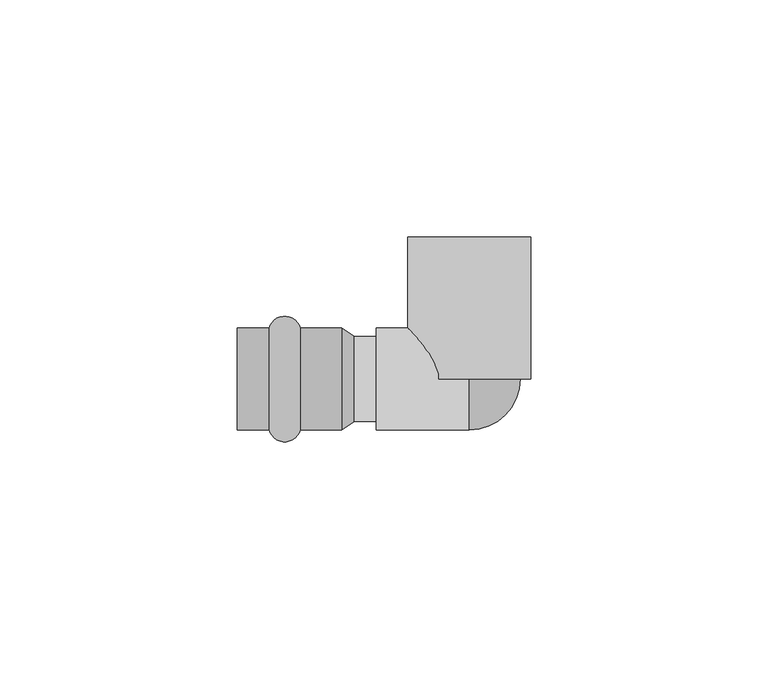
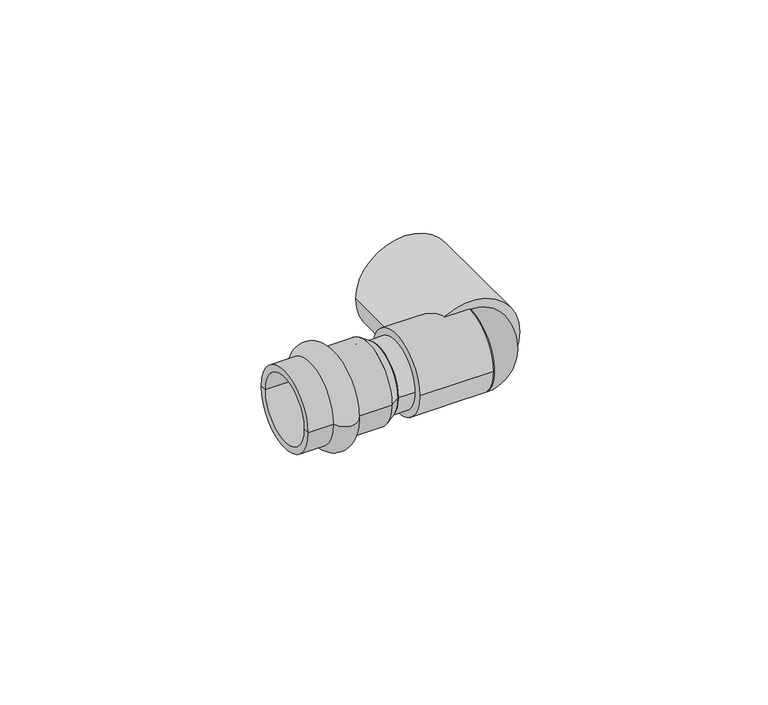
"""IFC4 building model written with IfcOpenShell, lengths in millimetres: pipe fitting geometry, VALTEC_VTi.952.I_Угольник с переходом на внутреннюю резьбу нержавеющая сталь : VTi.952.I."""

from ifc_helpers import new_model, si_unit, point, frame, origin, origin_2d, place, context, project, spatial, polyline, circle_curve, ellipse_curve, trimmed, segment, composite_curve, outline, extrude, source, transform, mapped, element, save
from ifc_brep_helpers import plane_surface, cylinder_surface, revolved_surface, advanced_brep


def pipe_fitting_e50a00d7(model_context):
    return source(origin(), model_context, "Body", "SolidModel", [
        advanced_brep(
        [(-42.2287193, -10.75, 0.0), (-42.2287193, 10.75, 0.0), (-35.6712807, 10.75, 0.0), (-35.6712807, -10.75, 0.0), (-49.0, -10.75, 0.0), (-49.0, 10.75, 0.0), (-49.0, -9.0, 0.0), (-49.0, 9.0, 0.0), (-26.95, -9.0, 0.0), (-26.95, 9.0, 0.0), (-26.95, -10.75, 0.0), (-26.95, 10.75, 0.0)],
        [
            (0, 1, circle_curve(frame((-42.2287193, 0.0, 0.0), z_axis=(1.0, 0.0, 0.0), x_axis=(0.0, 1.0, 0.0)), 10.75)),
            (1, 2, circle_curve(frame((-38.95, 9.85, 0.0), z_axis=(0.0, 0.0, -1.0), x_axis=(1.0, 0.0, 0.0)), 3.4)),
            (2, 3, circle_curve(frame((-35.6712807, 0.0, 0.0), z_axis=(-1.0, 0.0, 0.0), x_axis=(0.0, 1.0, 0.0)), 10.75)),
            (3, 0, circle_curve(frame((-38.95, -9.85, 0.0), z_axis=(0.0, 0.0, -1.0), x_axis=(1.0, 0.0, 0.0)), 3.4)),
            (1, 0, circle_curve(frame((-42.2287193, 0.0, 0.0), z_axis=(1.0, 0.0, 0.0), x_axis=(0.0, 1.0, 0.0)), 10.75)),
            (3, 2, circle_curve(frame((-35.6712807, 0.0, 0.0), z_axis=(-1.0, 0.0, 0.0), x_axis=(0.0, 1.0, 0.0)), 10.75)),
            (4, 5, circle_curve(frame((-49.0, 0.0, 0.0), z_axis=(1.0, 0.0, 0.0), x_axis=(0.0, 1.0, 0.0)), 10.75)),
            (5, 1),
            (0, 4),
            (5, 4, circle_curve(frame((-49.0, 0.0, 0.0), z_axis=(1.0, 0.0, 0.0), x_axis=(0.0, 1.0, 0.0)), 10.75)),
            (6, 7, circle_curve(frame((-49.0, 0.0, 0.0), z_axis=(1.0, 0.0, 0.0), x_axis=(0.0, 1.0, 0.0)), 9.0)),
            (7, 5),
            (4, 6),
            (7, 6, circle_curve(frame((-49.0, 0.0, 0.0), z_axis=(1.0, 0.0, 0.0), x_axis=(0.0, 1.0, 0.0)), 9.0)),
            (8, 9, circle_curve(frame((-26.95, 0.0, 0.0), z_axis=(1.0, 0.0, 0.0), x_axis=(0.0, 1.0, 0.0)), 9.0)),
            (9, 7),
            (6, 8),
            (9, 8, circle_curve(frame((-26.95, 0.0, 0.0), z_axis=(1.0, 0.0, 0.0), x_axis=(0.0, 1.0, 0.0)), 9.0)),
            (10, 11, circle_curve(frame((-26.95, 0.0, 0.0), z_axis=(1.0, 0.0, 0.0), x_axis=(0.0, 1.0, 0.0)), 10.75)),
            (11, 9),
            (8, 10),
            (11, 10, circle_curve(frame((-26.95, 0.0, 0.0), z_axis=(1.0, 0.0, 0.0), x_axis=(0.0, 1.0, 0.0)), 10.75)),
            (2, 11),
            (10, 3),
        ],
        [
            revolved_surface(trimmed(ellipse_curve(frame((-38.95, 9.85, 0.0), z_axis=(0.0, 0.0, 1.0), x_axis=(1.0, 0.0, 0.0)), 3.4, 3.4), [point((-35.6712807, 10.75, 0.0))], [point((-42.2287193, 10.75, 0.0))], True, "CARTESIAN"), (-52.5364426, 0.0, 0.0), (-1.0, 0.0, 0.0)),
            cylinder_surface(frame((-52.5364426, 0.0, 0.0), z_axis=(-1.0, 0.0, 0.0), x_axis=(0.0, 1.0, 0.0)), 10.75),
            plane_surface(frame((-49.0, 0.0, 0.0), z_axis=(-1.0, 0.0, 0.0), x_axis=(0.0, 1.0, 0.0))),
            revolved_surface(polyline([(-49.0, 9.0, 0.0), (-26.95, 9.0, 0.0)]), (-52.5364426, 0.0, 0.0), (-1.0, 0.0, 0.0)),
            plane_surface(frame((-26.95, 0.0, 0.0), z_axis=(1.0, 0.0, 0.0), x_axis=(0.0, 1.0, 0.0))),
        ],
        [
            (0, [[1, 2, 3, 4]]),
            (0, [[5, -4, 6, -2]]),
            (1, [[7, 8, -1, 9]]),
            (1, [[10, -9, -5, -8]]),
            (2, [[11, 12, -7, 13]]),
            (2, [[14, -13, -10, -12]]),
            (3, [[15, 16, -11, 17]]),
            (3, [[18, -17, -14, -16]]),
            (4, [[19, 20, -15, 21]]),
            (4, [[22, -21, -18, -20]]),
            (1, [[-3, 23, -19, 24]]),
            (1, [[-6, -24, -22, -23]]),
        ],
    ),
        advanced_brep(
        [(0.0, 0.0, -10.75), (0.0, 0.0, 10.75)],
        [
            (0, 1, circle_curve(frame((0.0, 0.0, 0.0), z_axis=(-1.0, 0.0, 0.0), x_axis=(0.0, -1.0, 0.0)), 10.75)),
            (1, 0),
            (1, 0, circle_curve(frame((0.0, 0.0, 0.0), z_axis=(0.0, 1.0, 0.0), x_axis=(1.0, 0.0, 0.0)), 10.75)),
        ],
        [
            plane_surface(frame((0.0, 0.0, 1.732782), z_axis=(-1.0, 0.0, 0.0), x_axis=(0.0, -1.0, 0.0))),
            plane_surface(frame((0.0, 0.0, 1.732782), z_axis=(0.0, 1.0, 0.0), x_axis=(1.0, 0.0, 0.0))),
            revolved_surface(trimmed(ellipse_curve(frame((0.0, 0.0, 0.0), z_axis=(-1.0, 0.0, 0.0), x_axis=(0.0, -1.0, 0.0)), 10.75, 10.75), [point((0.0, 0.0, -10.75))], [point((0.0, 0.0, 10.75))], True, "CARTESIAN"), (0.0, 0.0, 1.732782), (0.0, 0.0, 1.0)),
        ],
        [
            (0, [[1, 2]]),
            (1, [[3, -2]]),
            (2, [[-1, -3]]),
        ],
    ),
        extrude(outline(composite_curve([segment(trimmed(circle_curve(origin_2d(), 10.75), [point((-10.75, 0.0))], [point((10.75, 0.0))], False, "CARTESIAN"), True, "CONTINUOUS"), segment(trimmed(circle_curve(origin_2d(), 10.75), [point((10.75, 0.0))], [point((-10.75, 0.0))], False, "CARTESIAN"), True, "CONTINUOUS")], self_intersect=False)), frame((-19.6390217, 0.0, 0.0), z_axis=(1.0, 0.0, 0.0), x_axis=(0.0, 1.0, 0.0)), (0.0, 0.0, 1.0), 19.6390217),
        extrude(outline(composite_curve([segment(trimmed(circle_curve(origin_2d(), 13.0), [point((0.0, -13.0))], [point((0.0, 13.0))], False, "CARTESIAN"), True, "CONTINUOUS"), segment(trimmed(circle_curve(origin_2d(), 13.0), [point((0.0, 13.0))], [point((0.0, -13.0))], False, "CARTESIAN"), True, "CONTINUOUS")], self_intersect=False), holes=[composite_curve([segment(trimmed(circle_curve(origin_2d(), 10.0), [point((0.0, -10.0))], [point((0.0, 10.0))], True, "CARTESIAN"), True, "CONTINUOUS"), segment(trimmed(circle_curve(origin_2d(), 10.0), [point((0.0, 10.0))], [point((0.0, -10.0))], True, "CARTESIAN"), True, "CONTINUOUS")], self_intersect=False)]), frame((0.0, 0.0, 0.0), z_axis=(0.0, 1.0, 0.0), x_axis=(0.0, 0.0, 1.0)), (0.0, 0.0, 1.0), 30.0),
        extrude(outline(composite_curve([segment(trimmed(circle_curve(origin_2d(), 9.0), [point((-9.0, 0.0))], [point((9.0, 0.0))], False, "CARTESIAN"), True, "CONTINUOUS"), segment(trimmed(circle_curve(origin_2d(), 9.0), [point((9.0, 0.0))], [point((-9.0, 0.0))], False, "CARTESIAN"), True, "CONTINUOUS")], self_intersect=False)), frame((-24.255, 0.0, 0.0), z_axis=(1.0, 0.0, 0.0), x_axis=(0.0, 1.0, 0.0)), (0.0, 0.0, 1.0), 4.6159783),
        advanced_brep(
        [(-26.95, -10.75, 0.0), (-26.95, 10.75, 0.0), (-24.255, -9.0, 0.0), (-24.255, 9.0, 0.0)],
        [
            (0, 1, circle_curve(frame((-26.95, 0.0, 0.0), z_axis=(-1.0, 0.0, 0.0), x_axis=(0.0, -1.0, 0.0)), 10.75)),
            (1, 0, circle_curve(frame((-26.95, 0.0, 0.0), z_axis=(-1.0, 0.0, 0.0), x_axis=(0.0, 1.0, 0.0)), 10.75)),
            (2, 3, circle_curve(frame((-24.255, 0.0, 0.0), z_axis=(1.0, 0.0, 0.0), x_axis=(0.0, 1.0, 0.0)), 9.0)),
            (3, 2, circle_curve(frame((-24.255, 0.0, 0.0), z_axis=(1.0, 0.0, 0.0), x_axis=(0.0, -1.0, 0.0)), 9.0)),
            (2, 0),
            (1, 3),
        ],
        [
            plane_surface(frame((-26.95, 0.0, 0.0), z_axis=(-1.0, 0.0, 0.0), x_axis=(0.0, 0.0, -1.0))),
            plane_surface(frame((-24.255, 0.0, 0.0), z_axis=(1.0, 0.0, 0.0), x_axis=(0.0, 0.0, -1.0))),
            revolved_surface(polyline([(-24.255, -9.0, 0.0), (-26.95, -10.75, 0.0)]), (-10.395, 0.0, 0.0), (-1.0, 0.0, 0.0)),
            revolved_surface(polyline([(-24.255, 9.0, 0.0), (-26.95, 10.75, 0.0)]), (-10.395, 0.0, 0.0), (-1.0, 0.0, 0.0)),
        ],
        [
            (0, [[1, 2]]),
            (1, [[3, 4]]),
            (2, [[-3, 5, -2, 6]]),
            (3, [[-4, -6, -1, -5]]),
        ],
    ),
    ])


if __name__ == "__main__":
    model = new_model("IFC4")
    model_context = context("Model", 3, world=origin())
    ifc_project = project(units=[si_unit("LENGTHUNIT", "METRE", prefix="MILLI")], contexts=[model_context])
    site = spatial("IfcSite", under=ifc_project)
    building = spatial("IfcBuilding", under=site)
    placement = place(None, origin())
    pipe_fitting_shape = pipe_fitting_e50a00d7(model_context)
    element("IfcPipeFitting", 1, ObjectType="VALTEC_VTi.952.I_Угольник с переходом на внутреннюю резьбу нержавеющая сталь : VTi.952.I", at=placement, inside=building, context=model_context, shape_type="MappedRepresentation", body=[
        mapped(pipe_fitting_shape, transform((0.0, 0.0, 0.0), x_axis=(1.0, 0.0, 0.0), y_axis=(0.0, 1.0, 0.0), z_axis=(0.0, 0.0, 1.0))),
    ])
    save(model, "model.ifc")
